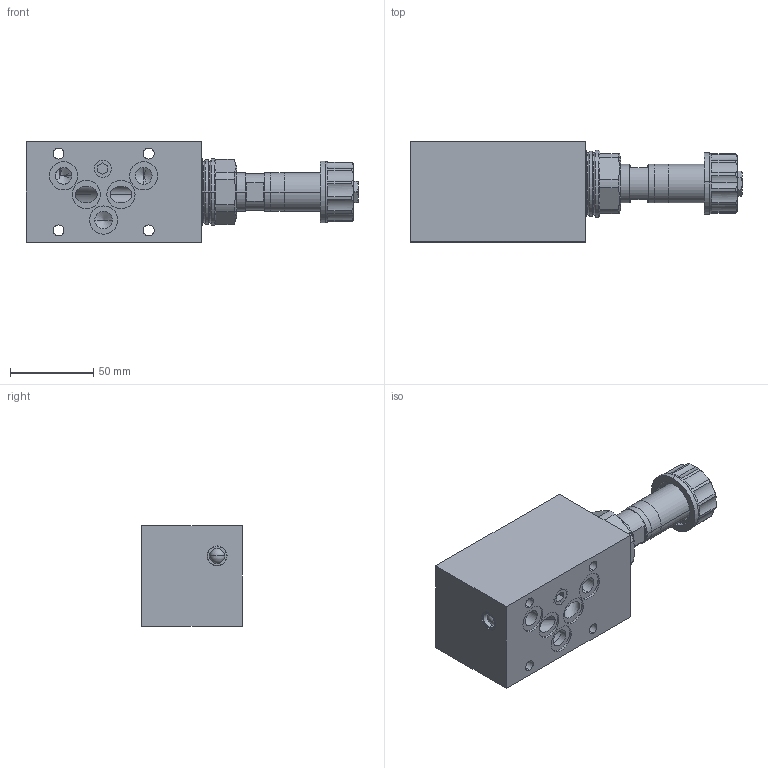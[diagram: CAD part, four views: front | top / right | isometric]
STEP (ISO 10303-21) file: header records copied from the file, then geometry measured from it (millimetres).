
FILE_DESCRIPTION (( 'STEP AP214' ), '1' );
FILE_NAME ('QDPFA10-A_B.STEP', '2017-04-19T09:44:35', ( '' ), ( '' ), 'SwSTEP 2.0', 'SolidWorks 2016', '' );
FILE_SCHEMA (( 'AUTOMOTIVE_DESIGN' ));
Length unit declared in the file: millimetre
Products named in the file (1): QDPFA10-A_B
Bounding box: 198.9 x 60 x 60 mm (x, y, z)
Volume: 421114.2 mm3; surface area: 58159 mm2
Topology: 4 solids, 5 shells, 487 faces, 1210 edges, 776 vertices
Faces by surface type: plane 233, cylinder 119, cone 82, bspline 35, torus 14, sphere 4
Entity records: 21790 total; most frequent: CARTESIAN_POINT 4909, ORIENTED_EDGE 2392, DIRECTION 2331, EDGE_CURVE 1196, AXIS2_PLACEMENT_3D 828, VERTEX_POINT 776, VECTOR 675, LINE 675
